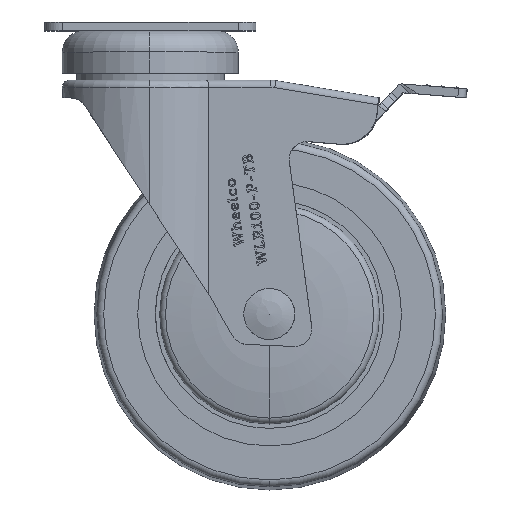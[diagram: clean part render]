
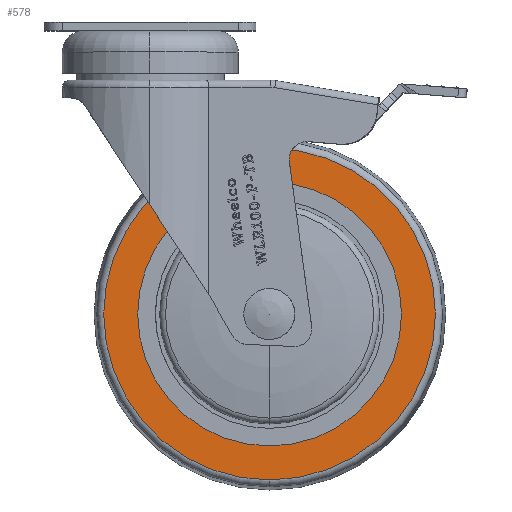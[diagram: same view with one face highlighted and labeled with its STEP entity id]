
A CAD part, top view. The second image highlights one B-rep face of the part: STEP entity #578.
In plain terms, the highlighted planar face has unit normal (-0.007, 0, 1) as drawn and (0, 1, 0) by its records, which use the part's own axes.
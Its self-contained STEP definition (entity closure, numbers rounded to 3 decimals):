
#578 = ADVANCED_FACE ( 'NONE', ( #23472, #19347 ), #4775, .T. ) ;
#589 = AXIS2_PLACEMENT_3D ( 'NONE', #16275, #2099, #1689 ) ;
#635 = DIRECTION ( 'NONE',  ( 0., 1., 0. ) ) ;
#1112 = CARTESIAN_POINT ( 'NONE',  ( 0., 12.5, 0. ) ) ;
#1222 = VERTEX_POINT ( 'NONE', #14575 ) ;
#1416 = CARTESIAN_POINT ( 'NONE',  ( 0., 12.5, 0. ) ) ;
#1689 = DIRECTION ( 'NONE',  ( 0., 0., 1. ) ) ;
#2099 = DIRECTION ( 'NONE',  ( 0., -1., 0. ) ) ;
#2102 = ORIENTED_EDGE ( 'NONE', *, *, #22289, .T. ) ;
#2489 = ORIENTED_EDGE ( 'NONE', *, *, #10016, .T. ) ;
#4775 = PLANE ( 'NONE',  #18462 ) ;
#4910 = CARTESIAN_POINT ( 'NONE',  ( 49., 12.5, 0. ) ) ;
#6180 = CARTESIAN_POINT ( 'NONE',  ( 0., 12.5, -37.5 ) ) ;
#6430 = CIRCLE ( 'NONE', #7321, 37.5 ) ;
#7321 = AXIS2_PLACEMENT_3D ( 'NONE', #13860, #16061, #23916 ) ;
#8315 = VERTEX_POINT ( 'NONE', #12704 ) ;
#9825 = CARTESIAN_POINT ( 'NONE',  ( 0., 12.5, 37.5 ) ) ;
#10016 = EDGE_CURVE ( 'NONE', #20228, #11757, #20353, .T. ) ;
#10921 = EDGE_LOOP ( 'NONE', ( #2489, #18826 ) ) ;
#11671 = CIRCLE ( 'NONE', #20014, 47.154 ) ;
#11757 = VERTEX_POINT ( 'NONE', #6180 ) ;
#12001 = DIRECTION ( 'NONE',  ( 0., 0., 1. ) ) ;
#12704 = CARTESIAN_POINT ( 'NONE',  ( 0., 12.5, -47.154 ) ) ;
#12885 = DIRECTION ( 'NONE',  ( 0., 0., 1. ) ) ;
#13860 = CARTESIAN_POINT ( 'NONE',  ( 0., 12.5, 0. ) ) ;
#14575 = CARTESIAN_POINT ( 'NONE',  ( 0., 12.5, 47.154 ) ) ;
#14724 = CIRCLE ( 'NONE', #22654, 47.154 ) ;
#16061 = DIRECTION ( 'NONE',  ( 0., -1., 0. ) ) ;
#16275 = CARTESIAN_POINT ( 'NONE',  ( 0., 12.5, 0. ) ) ;
#17252 = EDGE_CURVE ( 'NONE', #11757, #20228, #6430, .T. ) ;
#18073 = DIRECTION ( 'NONE',  ( 0., 1., 0. ) ) ;
#18167 = DIRECTION ( 'NONE',  ( 0., 1., 0. ) ) ;
#18462 = AXIS2_PLACEMENT_3D ( 'NONE', #4910, #635, #12885 ) ;
#18826 = ORIENTED_EDGE ( 'NONE', *, *, #17252, .T. ) ;
#19347 = FACE_BOUND ( 'NONE', #10921, .T. ) ;
#20014 = AXIS2_PLACEMENT_3D ( 'NONE', #1416, #18073, #12001 ) ;
#20228 = VERTEX_POINT ( 'NONE', #9825 ) ;
#20353 = CIRCLE ( 'NONE', #589, 37.5 ) ;
#21850 = EDGE_CURVE ( 'NONE', #1222, #8315, #11671, .T. ) ;
#22289 = EDGE_CURVE ( 'NONE', #8315, #1222, #14724, .T. ) ;
#22654 = AXIS2_PLACEMENT_3D ( 'NONE', #1112, #18167, #24095 ) ;
#23261 = ORIENTED_EDGE ( 'NONE', *, *, #21850, .T. ) ;
#23472 = FACE_OUTER_BOUND ( 'NONE', #26030, .T. ) ;
#23916 = DIRECTION ( 'NONE',  ( 0., 0., 1. ) ) ;
#24095 = DIRECTION ( 'NONE',  ( 0., 0., 1. ) ) ;
#26030 = EDGE_LOOP ( 'NONE', ( #23261, #2102 ) ) ;
